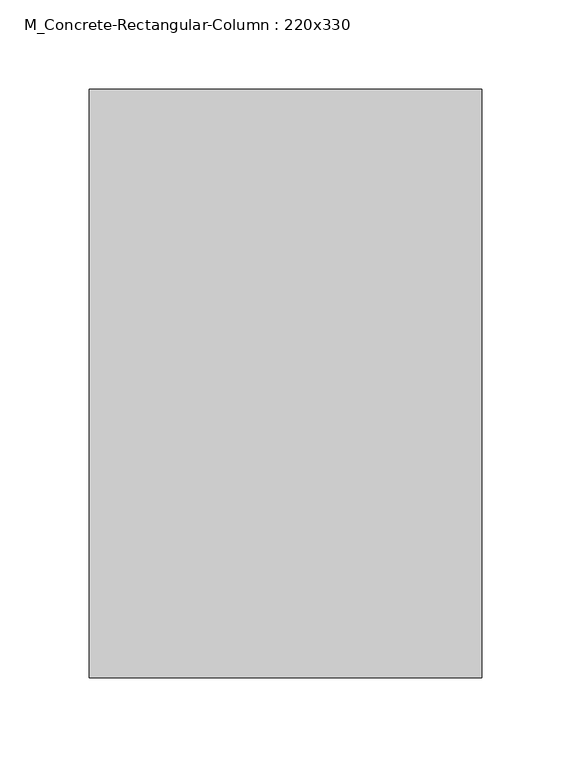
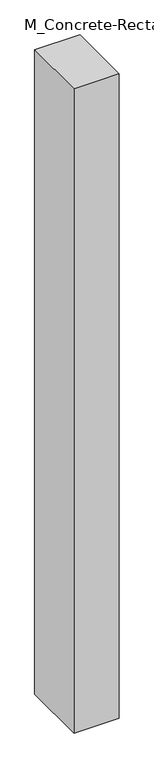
"""IFC4 building model written with IfcOpenShell, lengths in millimetres: column geometry, M_Concrete-Rectangular-Column : 220x330."""

from ifc_helpers import new_model, si_unit, frame, origin, place, context, project, spatial, polyline, outline, extrude, source, transform, mapped, element, save


def m_concrete_rectangular_column_220x330_6e4589e2(model_context):
    return source(origin(), model_context, "Body", "SweptSolid", [
        extrude(outline(polyline([(110.0, 165.0), (110.0, -165.0), (-110.0, -165.0), (-110.0, 165.0), (110.0, 165.0)])), frame((0.0, 0.0, 2500.0), z_axis=(0.0, 0.0, 1.0), x_axis=(1.0, 0.0, 0.0)), (0.0, 0.0, 1.0), 3320.0),
    ])


if __name__ == "__main__":
    model = new_model("IFC4")
    model_context = context("Model", 3, world=origin())
    ifc_project = project(units=[si_unit("LENGTHUNIT", "METRE", prefix="MILLI")], contexts=[model_context])
    site = spatial("IfcSite", under=ifc_project)
    building = spatial("IfcBuilding", under=site)
    placement = place(None, origin())
    m_concrete_rectangular_column_220x330_shape = m_concrete_rectangular_column_220x330_6e4589e2(model_context)
    element("IfcColumn", 1, ObjectType="M_Concrete-Rectangular-Column : 220x330", at=placement, inside=building, context=model_context, shape_type="MappedRepresentation", body=[
        mapped(m_concrete_rectangular_column_220x330_shape, transform((0.0, 0.0, 0.0), x_axis=(1.0, 0.0, 0.0), y_axis=(0.0, 1.0, 0.0), z_axis=(0.0, 0.0, 1.0))),
    ])
    save(model, "model.ifc")
